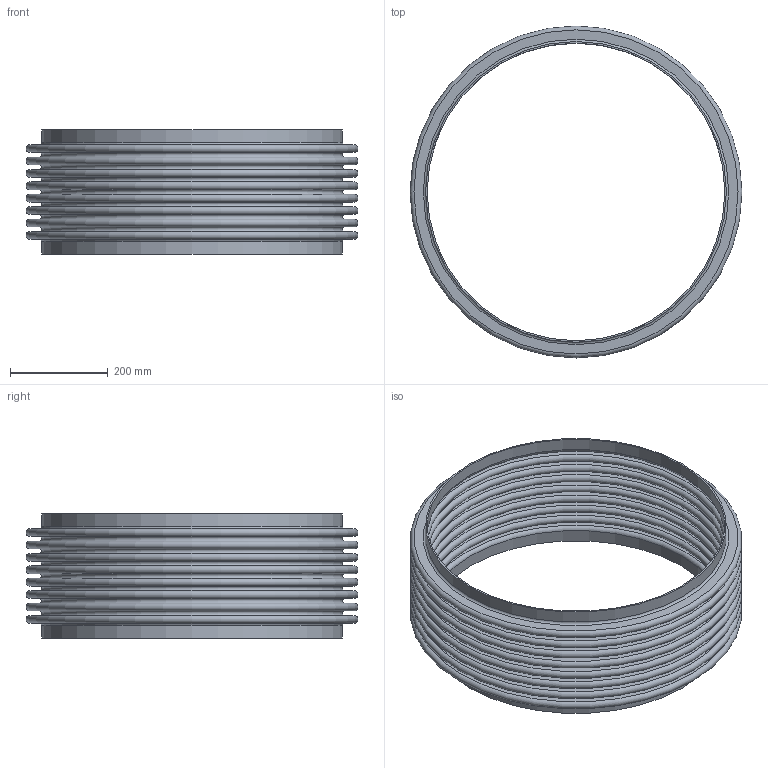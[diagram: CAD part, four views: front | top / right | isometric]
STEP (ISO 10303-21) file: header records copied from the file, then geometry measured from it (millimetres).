
FILE_DESCRIPTION(/* description */ ('STOCK BELLOWS: U.S-24-8-300S, 24.000 I.D., 26.750 O.D., 2 PLY, 16 GA (0.060 THICK), 8 CONS., 1.000 PITCH, 1.000 TANGENT. '),/* implementation_level */ '2;1');
FILE_NAME(/* name */ 'STOCK BELLOW - US-24-8-300S.stp',/* time_stamp */ '2026-07-21T13:32:32-05:00',/* author */ ('KennethB'),/* organization */ (''),/* preprocessor_version */ 'ST-DEVELOPER v20.1',/* originating_system */ 'Autodesk Inventor 2026',/* authorisation */ '');
FILE_SCHEMA (('AUTOMOTIVE_DESIGN { 1 0 10303 214 3 1 1 }','TECHNICAL_DATA_PACKAGING'));
Length unit declared in the file: inch
Products named in the file (1): STOCK BELLOW - US-24-8-300S
Bounding box: 679.45 x 679.45 x 254 mm (x, y, z)
Volume: 4161608.3 mm3; surface area: 2765912.9 mm2
Topology: 3 solids, 3 shells, 76 faces, 114 edges, 77 vertices
Faces by surface type: plane 38, torus 34, cylinder 4
Full cylindrical faces by diameter (mm): 609.6 x2, 615.696 x2
Entity records: 1814 total; most frequent: DIRECTION 378, CARTESIAN_POINT 268, ORIENTED_EDGE 228, AXIS2_PLACEMENT_3D 187, EDGE_LOOP 114, EDGE_CURVE 114, CIRCLE 110, FACE_OUTER_BOUND 76
